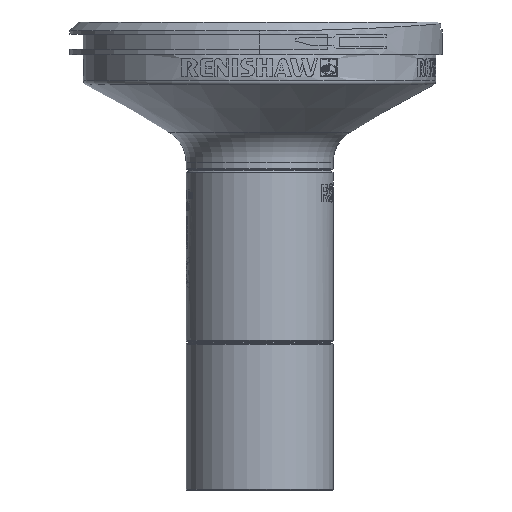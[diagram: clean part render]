
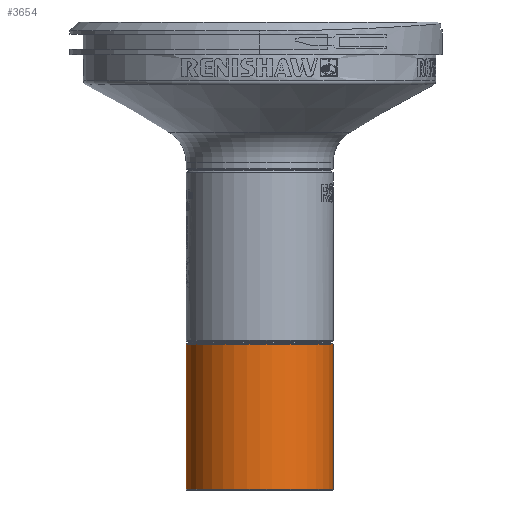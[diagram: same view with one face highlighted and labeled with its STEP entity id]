
A CAD part, left-side view. The second image highlights one B-rep face of the part: STEP entity #3654.
In plain terms, the highlighted cylindrical face has radius 12.5 mm (diameter 25 mm), a full revolution.
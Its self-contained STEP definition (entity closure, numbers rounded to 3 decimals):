
#2257=FACE_BOUND('',#4349,.T.);
#2258=FACE_BOUND('',#4350,.T.);
#3364=CYLINDRICAL_SURFACE('',#10832,12.5);
#3654=ADVANCED_FACE('',(#2257,#2258),#3364,.T.);
#4349=EDGE_LOOP('',(#7507));
#4350=EDGE_LOOP('',(#7508));
#7507=ORIENTED_EDGE('',*,*,#10015,.T.);
#7508=ORIENTED_EDGE('',*,*,#10016,.T.);
#8676=VERTEX_POINT('',#18516);
#8677=VERTEX_POINT('',#18518);
#10015=EDGE_CURVE('',#8676,#8676,#10265,.T.);
#10016=EDGE_CURVE('',#8677,#8677,#10266,.T.);
#10265=CIRCLE('',#10830,12.5);
#10266=CIRCLE('',#10831,12.5);
#10830=AXIS2_PLACEMENT_3D('',#18515,#12189,#12190);
#10831=AXIS2_PLACEMENT_3D('',#18517,#12191,#12192);
#10832=AXIS2_PLACEMENT_3D('',#18519,#12193,#12194);
#12189=DIRECTION('',(0.,0.,-1.));
#12190=DIRECTION('',(0.,-1.,0.));
#12191=DIRECTION('',(0.,0.,1.));
#12192=DIRECTION('',(0.,1.,0.));
#12193=DIRECTION('',(0.,0.,1.));
#12194=DIRECTION('',(0.,-1.,0.));
#18515=CARTESIAN_POINT('',(0.,0.,
-55.68));
#18516=CARTESIAN_POINT('',(0.,-12.5,-55.68));
#18517=CARTESIAN_POINT('',(0.,0.,
-80.38));
#18518=CARTESIAN_POINT('',(0.,12.5,-80.38));
#18519=CARTESIAN_POINT('',(0.,0.,
-80.48));
